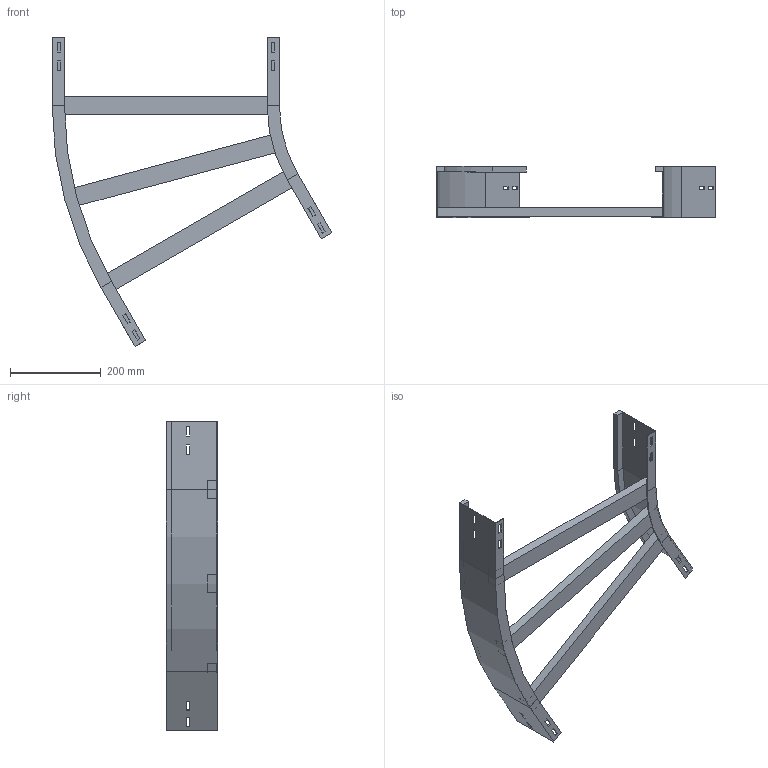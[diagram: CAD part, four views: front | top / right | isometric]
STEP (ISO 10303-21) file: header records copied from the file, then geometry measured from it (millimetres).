
FILE_DESCRIPTION (( 'STEP AP214' ), '1' );
FILE_NAME ('A2_12B3J500.step', '2025-02-21T15:09:00', ( '' ), ( '' ), 'SwSTEP 2.0', 'SolidWorks 2023', '' );
FILE_SCHEMA (( 'AUTOMOTIVE_DESIGN' ));
Length unit declared in the file: millimetre
Products named in the file (4): A2_12B3J500; A2_LONGH.INTERNO 30°_H112.5_R300; A2_LONGH.ESTERNO 30°_H112.5_R300+500; TRAVERSINO_500
Assembly tree (5 placements, depth 2):
  A2_12B3J500
    A2_LONGH.INTERNO 30°_H112.5_R300
    A2_LONGH.ESTERNO 30°_H112.5_R300+500
    TRAVERSINO_500  x3
Bounding box: 615.19 x 112.5 x 679.9 mm (x, y, z)
Volume: 1749524.7 mm3; surface area: 549427.1 mm2
Topology: 5 solids, 5 shells, 134 faces, 340 edges, 216 vertices
Faces by surface type: plane 126, cylinder 8
Entity records: 3821 total; most frequent: CARTESIAN_POINT 646, ORIENTED_EDGE 632, DIRECTION 592, EDGE_CURVE 316, VECTOR 300, LINE 300, VERTEX_POINT 200, EDGE_LOOP 154
